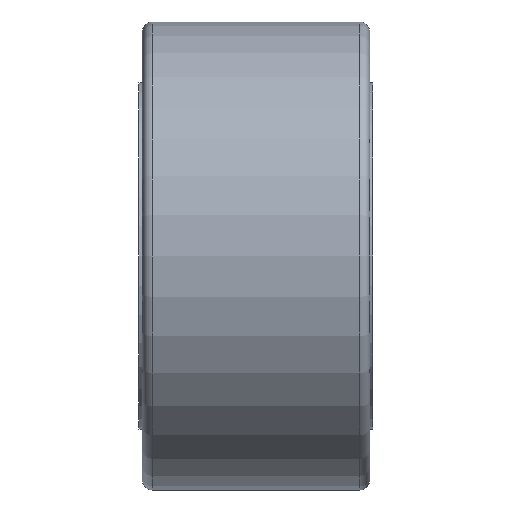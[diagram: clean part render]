
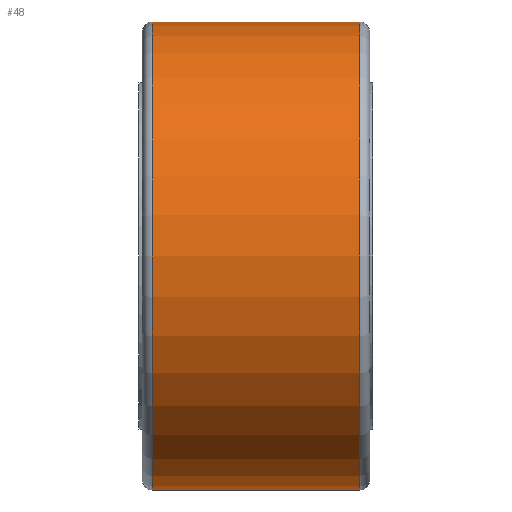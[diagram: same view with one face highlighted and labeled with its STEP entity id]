
A CAD part, left-side view. The second image highlights one B-rep face of the part: STEP entity #48.
In plain terms, the highlighted cylindrical face has radius 70 mm (diameter 140 mm), a partial arc.
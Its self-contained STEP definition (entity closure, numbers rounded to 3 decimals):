
#7 = AXIS2_PLACEMENT_3D ( 'NONE', #286, #570, #236 ) ;
#19 = CARTESIAN_POINT ( 'NONE',  ( 0., 65., 70. ) ) ;
#48 = ADVANCED_FACE ( 'NONE', ( #387 ), #136, .T. ) ;
#83 = EDGE_CURVE ( 'NONE', #356, #483, #309, .T. ) ;
#100 = DIRECTION ( 'NONE',  ( 0., -1., 0. ) ) ;
#116 = EDGE_CURVE ( 'NONE', #351, #308, #311, .T. ) ;
#124 = EDGE_CURVE ( 'NONE', #356, #308, #409, .T. ) ;
#136 = CYLINDRICAL_SURFACE ( 'NONE', #488, 70. ) ;
#168 = CARTESIAN_POINT ( 'NONE',  ( 0., 68., -70. ) ) ;
#190 = CARTESIAN_POINT ( 'NONE',  ( 0., 68., 70. ) ) ;
#192 = ORIENTED_EDGE ( 'NONE', *, *, #83, .T. ) ;
#196 = DIRECTION ( 'NONE',  ( 0., 0., -1. ) ) ;
#236 = DIRECTION ( 'NONE',  ( 0., 0., 1. ) ) ;
#264 = EDGE_LOOP ( 'NONE', ( #274, #192, #446, #518 ) ) ;
#274 = ORIENTED_EDGE ( 'NONE', *, *, #124, .F. ) ;
#286 = CARTESIAN_POINT ( 'NONE',  ( 0., 3., 0. ) ) ;
#308 = VERTEX_POINT ( 'NONE', #317 ) ;
#309 = CIRCLE ( 'NONE', #527, 70. ) ;
#311 = CIRCLE ( 'NONE', #7, 70. ) ;
#314 = EDGE_CURVE ( 'NONE', #483, #351, #399, .T. ) ;
#317 = CARTESIAN_POINT ( 'NONE',  ( 0., 3., 70. ) ) ;
#349 = VECTOR ( 'NONE', #358, 1000. ) ;
#351 = VERTEX_POINT ( 'NONE', #363 ) ;
#356 = VERTEX_POINT ( 'NONE', #19 ) ;
#358 = DIRECTION ( 'NONE',  ( 0., -1., 0. ) ) ;
#363 = CARTESIAN_POINT ( 'NONE',  ( 0., 3., -70. ) ) ;
#368 = VECTOR ( 'NONE', #471, 1000. ) ;
#380 = DIRECTION ( 'NONE',  ( 0., 0., 1. ) ) ;
#387 = FACE_OUTER_BOUND ( 'NONE', #264, .T. ) ;
#389 = CARTESIAN_POINT ( 'NONE',  ( 0., 65., -70. ) ) ;
#399 = LINE ( 'NONE', #168, #349 ) ;
#409 = LINE ( 'NONE', #190, #368 ) ;
#426 = CARTESIAN_POINT ( 'NONE',  ( 0., 65., 0. ) ) ;
#446 = ORIENTED_EDGE ( 'NONE', *, *, #314, .T. ) ;
#471 = DIRECTION ( 'NONE',  ( 0., -1., 0. ) ) ;
#483 = VERTEX_POINT ( 'NONE', #389 ) ;
#488 = AXIS2_PLACEMENT_3D ( 'NONE', #528, #576, #196 ) ;
#518 = ORIENTED_EDGE ( 'NONE', *, *, #116, .T. ) ;
#527 = AXIS2_PLACEMENT_3D ( 'NONE', #426, #100, #380 ) ;
#528 = CARTESIAN_POINT ( 'NONE',  ( 0., 68., 0. ) ) ;
#570 = DIRECTION ( 'NONE',  ( 0., 1., 0. ) ) ;
#576 = DIRECTION ( 'NONE',  ( 0., -1., 0. ) ) ;
